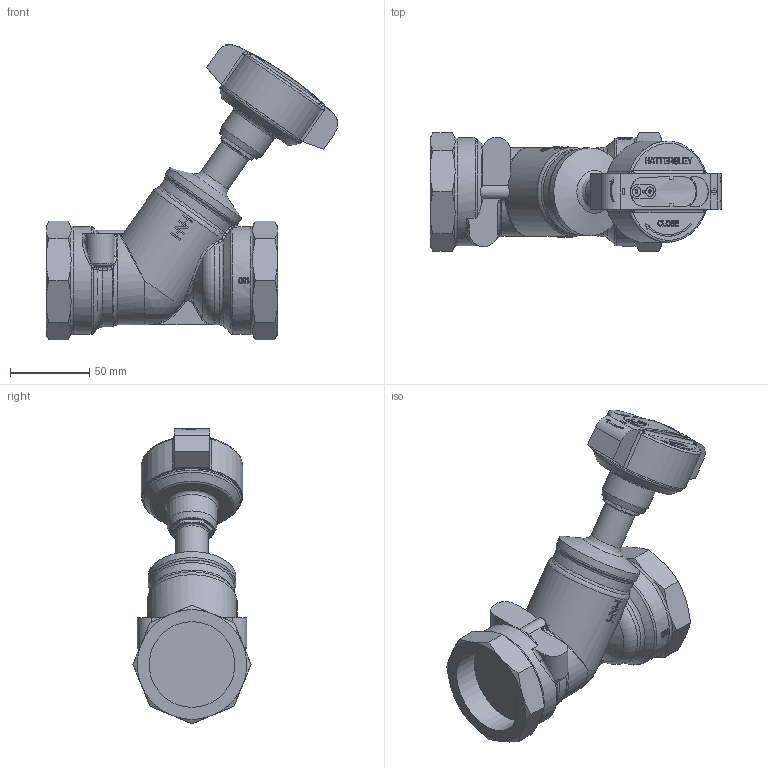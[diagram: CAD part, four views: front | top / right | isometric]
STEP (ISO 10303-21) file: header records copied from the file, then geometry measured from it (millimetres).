
FILE_DESCRIPTION((''),'2;1');
FILE_NAME('P:\Fastrack\53972_CRANE 3D\Workspace\HATTERSLEY\Fig-1432_2in\Fig-1432_2in.stp','2011-03-07T15:44:07',('btaylor'),(''),'Autodesk Inventor 2008','Autodesk Inventor 2008','');
FILE_SCHEMA(('AUTOMOTIVE_DESIGN { 1 0 10303 214 1 1 1 1 }'));
Length unit declared in the file: millimetre
Products named in the file (1): Fig-1432_2in
Bounding box: 184.03 x 74.69 x 186.34 mm (x, y, z)
Volume: 602905.3 mm3; surface area: 69330 mm2
Topology: 1 solids, 1 shells, 1111 faces, 3069 edges, 2004 vertices
Faces by surface type: bspline 673, plane 300, cylinder 82, cone 41, torus 13, sphere 2
Full cylindrical faces by diameter (mm): 20.5 x1, 31.5 x1, 55.5 x1, 61.958 x1, 68 x2
Entity records: 149403 total; most frequent: CARTESIAN_POINT 124965, ORIENTED_EDGE 6056, EDGE_CURVE 3028, DIRECTION 2694, VERTEX_POINT 1989, B_SPLINE_CURVE_WITH_KNOTS 1384, VECTOR 1216, LINE 1216
